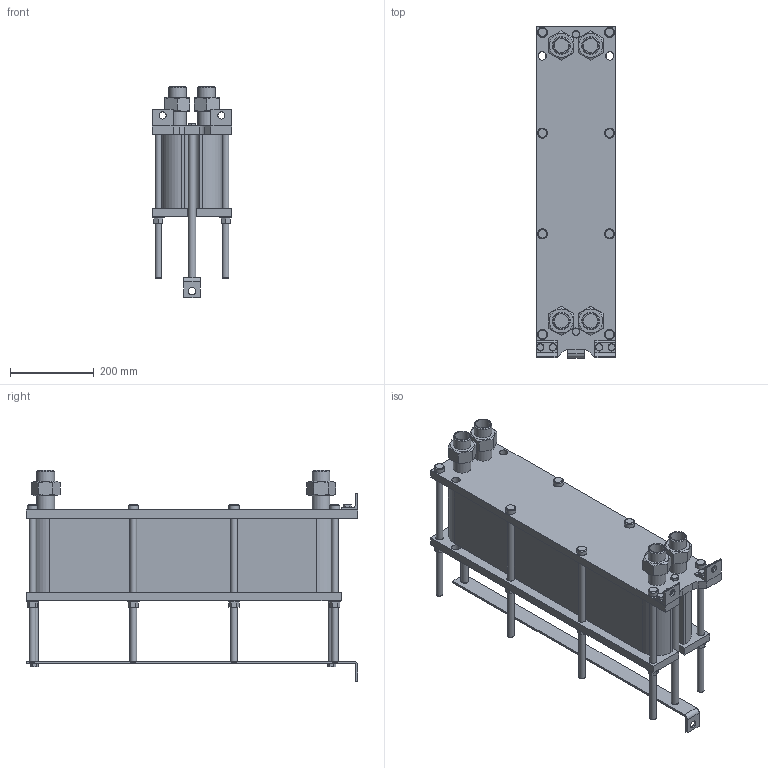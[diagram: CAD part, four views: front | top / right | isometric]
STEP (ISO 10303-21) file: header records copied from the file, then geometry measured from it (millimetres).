
FILE_DESCRIPTION(/* description */ (''),/* implementation_level */ '2;1');
FILE_NAME(/* name */ 'C:\Users\zhuro\Desktop\ENCO\TO\ЭН-008\ЭН-0,5-008-57-1.stp',/* time_stamp */ '2022-06-06T10:50:05+03:00',/* author */ ('zhuro'),/* organization */ (''),/* preprocessor_version */ 'ST-DEVELOPER v18.1',/* originating_system */ 'Autodesk Inventor 2022',/* authorisation */ '');
FILE_SCHEMA (('AUTOMOTIVE_DESIGN { 1 0 10303 214 3 1 1 }'));
Length unit declared in the file: millimetre
Products named in the file (1): ЭН-0,5-008-57-1
Bounding box: 190 x 790 x 502.6 mm (x, y, z)
Volume: 24801836.7 mm3; surface area: 1657795.1 mm2
Topology: 40 solids, 40 shells, 428 faces, 924 edges, 606 vertices
Faces by surface type: plane 273, cylinder 109, cone 40, torus 6
Full cylindrical faces by diameter (mm): 12 x6, 14 x2, 16 x20, 17 x8, 18 x19, 20 x5, 24 x8, 28 x8, 34.3 x8, 42.3 x8
Entity records: 15843 total; most frequent: CARTESIAN_POINT 5991, DIRECTION 1984, ORIENTED_EDGE 1848, EDGE_CURVE 924, AXIS2_PLACEMENT_3D 715, VERTEX_POINT 606, LINE 554, VECTOR 554
